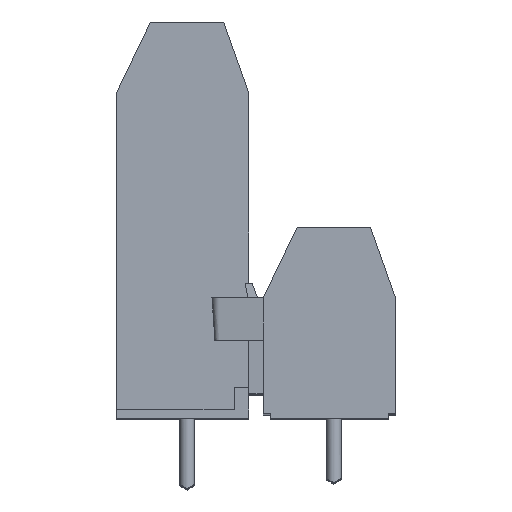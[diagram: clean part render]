
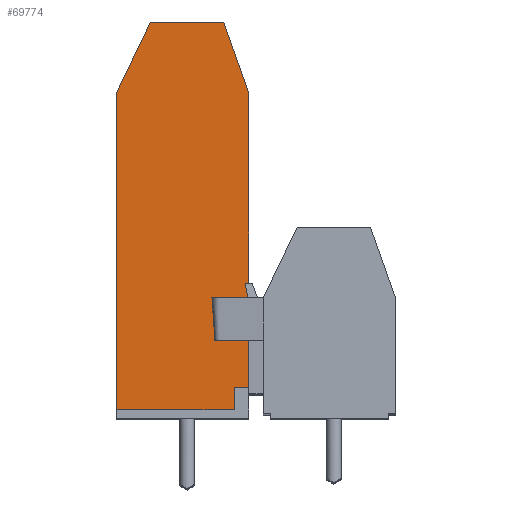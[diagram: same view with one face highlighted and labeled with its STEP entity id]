
A CAD part, top view. The second image highlights one B-rep face of the part: STEP entity #69774.
In plain terms, the highlighted planar face has unit normal (0, 0, 1).
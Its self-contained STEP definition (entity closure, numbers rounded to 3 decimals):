
#72 = EDGE_CURVE ( 'NONE', #78765, #37513, #77051, .T. ) ;
#1006 = VERTEX_POINT ( 'NONE', #21616 ) ;
#1264 = DIRECTION ( 'NONE',  ( 0., 1., 0. ) ) ;
#1487 = VERTEX_POINT ( 'NONE', #48053 ) ;
#1622 = LINE ( 'NONE', #52595, #69255 ) ;
#2286 = CARTESIAN_POINT ( 'NONE',  ( 14.151, 6.647, -2.98 ) ) ;
#2788 = VECTOR ( 'NONE', #49346, 1000. ) ;
#4319 = CARTESIAN_POINT ( 'NONE',  ( 12.563, 24.547, -2.98 ) ) ;
#5132 = VERTEX_POINT ( 'NONE', #45247 ) ;
#6871 = VERTEX_POINT ( 'NONE', #75083 ) ;
#7223 = LINE ( 'NONE', #72692, #45701 ) ;
#9177 = DIRECTION ( 'NONE',  ( 0., -1., 0. ) ) ;
#10140 = LINE ( 'NONE', #42113, #53907 ) ;
#10203 = EDGE_LOOP ( 'NONE', ( #30147, #57482, #23955, #78652, #75455, #30839, #69827, #77815, #78427, #24028, #55674, #11433, #33619 ) ) ;
#11433 = ORIENTED_EDGE ( 'NONE', *, *, #18946, .T. ) ;
#14230 = EDGE_CURVE ( 'NONE', #19168, #6871, #23433, .T. ) ;
#14811 = VECTOR ( 'NONE', #30394, 1000. ) ;
#15547 = CARTESIAN_POINT ( 'NONE',  ( 5.263, 11.847, -2.98 ) ) ;
#17571 = LINE ( 'NONE', #65574, #30082 ) ;
#18946 = EDGE_CURVE ( 'NONE', #5132, #21260, #28505, .T. ) ;
#19168 = VERTEX_POINT ( 'NONE', #49059 ) ;
#20234 = VECTOR ( 'NONE', #9177, 1000. ) ;
#21260 = VERTEX_POINT ( 'NONE', #29301 ) ;
#21616 = CARTESIAN_POINT ( 'NONE',  ( 13.273, -0.353, -2.98 ) ) ;
#22026 = VERTEX_POINT ( 'NONE', #31491 ) ;
#22290 = DIRECTION ( 'NONE',  ( -1., 0., 0. ) ) ;
#23433 = LINE ( 'NONE', #41410, #79645 ) ;
#23498 = EDGE_CURVE ( 'NONE', #21260, #78765, #38166, .T. ) ;
#23955 = ORIENTED_EDGE ( 'NONE', *, *, #14230, .T. ) ;
#24028 = ORIENTED_EDGE ( 'NONE', *, *, #79126, .T. ) ;
#24470 = FACE_OUTER_BOUND ( 'NONE', #10203, .T. ) ;
#25385 = CARTESIAN_POINT ( 'NONE',  ( 14.151, 6.747, -2.98 ) ) ;
#25585 = LINE ( 'NONE', #85166, #47517 ) ;
#28505 = LINE ( 'NONE', #54333, #53559 ) ;
#29193 = CARTESIAN_POINT ( 'NONE',  ( 14.208, 5.747, -2.98 ) ) ;
#29256 = DIRECTION ( 'NONE',  ( 0., 0., -1. ) ) ;
#29301 = CARTESIAN_POINT ( 'NONE',  ( 14.208, 5.747, -2.98 ) ) ;
#29473 = EDGE_CURVE ( 'NONE', #76360, #5132, #17571, .T. ) ;
#30082 = VECTOR ( 'NONE', #32103, 1000. ) ;
#30147 = ORIENTED_EDGE ( 'NONE', *, *, #72, .T. ) ;
#30394 = DIRECTION ( 'NONE',  ( -1., 0., 0. ) ) ;
#30687 = CARTESIAN_POINT ( 'NONE',  ( 7.563, 24.547, -2.98 ) ) ;
#30839 = ORIENTED_EDGE ( 'NONE', *, *, #54349, .T. ) ;
#31491 = CARTESIAN_POINT ( 'NONE',  ( 5.263, 19.747, -2.98 ) ) ;
#32103 = DIRECTION ( 'NONE',  ( 0., 1., 0. ) ) ;
#33619 = ORIENTED_EDGE ( 'NONE', *, *, #23498, .T. ) ;
#37513 = VERTEX_POINT ( 'NONE', #25385 ) ;
#38166 = LINE ( 'NONE', #29193, #2788 ) ;
#39005 = DIRECTION ( 'NONE',  ( -0.432, -0.902, 0. ) ) ;
#39194 = CARTESIAN_POINT ( 'NONE',  ( 14.263, -0.353, -2.98 ) ) ;
#39688 = EDGE_CURVE ( 'NONE', #37513, #19168, #52885, .T. ) ;
#39989 = CARTESIAN_POINT ( 'NONE',  ( 14.052, 6.63, -2.98 ) ) ;
#40202 = DIRECTION ( 'NONE',  ( 0., 0., -1. ) ) ;
#40547 = EDGE_CURVE ( 'NONE', #70380, #62364, #52625, .T. ) ;
#41410 = CARTESIAN_POINT ( 'NONE',  ( 14.263, 19.747, -2.98 ) ) ;
#42113 = CARTESIAN_POINT ( 'NONE',  ( 14.263, -1.885, -2.98 ) ) ;
#43573 = EDGE_CURVE ( 'NONE', #81374, #1487, #10140, .T. ) ;
#44366 = CARTESIAN_POINT ( 'NONE',  ( 5.263, -1.885, -2.98 ) ) ;
#44549 = EDGE_CURVE ( 'NONE', #1006, #1487, #45364, .T. ) ;
#45247 = CARTESIAN_POINT ( 'NONE',  ( 14.263, 5.747, -2.98 ) ) ;
#45305 = DIRECTION ( 'NONE',  ( 1., 0., 0. ) ) ;
#45364 = LINE ( 'NONE', #72140, #75688 ) ;
#45650 = AXIS2_PLACEMENT_3D ( 'NONE', #2286, #29256, #22290 ) ;
#45701 = VECTOR ( 'NONE', #39005, 1000. ) ;
#46416 = CARTESIAN_POINT ( 'NONE',  ( 14.429, 6.747, -2.98 ) ) ;
#47517 = VECTOR ( 'NONE', #45305, 1000. ) ;
#48053 = CARTESIAN_POINT ( 'NONE',  ( 13.273, -1.885, -2.98 ) ) ;
#49059 = CARTESIAN_POINT ( 'NONE',  ( 14.263, 6.747, -2.98 ) ) ;
#49346 = DIRECTION ( 'NONE',  ( -0.174, 0.985, 0. ) ) ;
#50540 = LINE ( 'NONE', #15547, #20234 ) ;
#52263 = DIRECTION ( 'NONE',  ( 1., 0., 0. ) ) ;
#52595 = CARTESIAN_POINT ( 'NONE',  ( 12.563, 24.547, -2.98 ) ) ;
#52625 = LINE ( 'NONE', #30687, #14811 ) ;
#52885 = LINE ( 'NONE', #46416, #66359 ) ;
#53559 = VECTOR ( 'NONE', #55487, 1000. ) ;
#53907 = VECTOR ( 'NONE', #62159, 1000. ) ;
#54333 = CARTESIAN_POINT ( 'NONE',  ( 14.863, 5.747, -2.98 ) ) ;
#54349 = EDGE_CURVE ( 'NONE', #62364, #22026, #7223, .T. ) ;
#55487 = DIRECTION ( 'NONE',  ( -1., 0., 0. ) ) ;
#55674 = ORIENTED_EDGE ( 'NONE', *, *, #29473, .T. ) ;
#57482 = ORIENTED_EDGE ( 'NONE', *, *, #39688, .T. ) ;
#59354 = AXIS2_PLACEMENT_3D ( 'NONE', #66053, #40202, #59652 ) ;
#59367 = PLANE ( 'NONE',  #59354 ) ;
#59652 = DIRECTION ( 'NONE',  ( -1., 0., 0. ) ) ;
#62159 = DIRECTION ( 'NONE',  ( 1., 0., 0. ) ) ;
#62364 = VERTEX_POINT ( 'NONE', #80557 ) ;
#65574 = CARTESIAN_POINT ( 'NONE',  ( 14.263, 19.747, -2.98 ) ) ;
#66053 = CARTESIAN_POINT ( 'NONE',  ( 14.263, 11.847, -2.98 ) ) ;
#66359 = VECTOR ( 'NONE', #52263, 1000. ) ;
#67769 = DIRECTION ( 'NONE',  ( 0., -1., 0. ) ) ;
#69255 = VECTOR ( 'NONE', #73766, 1000. ) ;
#69774 = ADVANCED_FACE ( 'NONE', ( #24470 ), #59367, .F. ) ;
#69827 = ORIENTED_EDGE ( 'NONE', *, *, #79555, .T. ) ;
#70380 = VERTEX_POINT ( 'NONE', #4319 ) ;
#72140 = CARTESIAN_POINT ( 'NONE',  ( 13.273, -0.353, -2.98 ) ) ;
#72692 = CARTESIAN_POINT ( 'NONE',  ( 5.263, 19.747, -2.98 ) ) ;
#73766 = DIRECTION ( 'NONE',  ( -0.334, 0.943, 0. ) ) ;
#75083 = CARTESIAN_POINT ( 'NONE',  ( 14.263, 19.747, -2.98 ) ) ;
#75455 = ORIENTED_EDGE ( 'NONE', *, *, #40547, .T. ) ;
#75688 = VECTOR ( 'NONE', #67769, 1000. ) ;
#76360 = VERTEX_POINT ( 'NONE', #39194 ) ;
#77051 = CIRCLE ( 'NONE', #45650, 0.1 ) ;
#77815 = ORIENTED_EDGE ( 'NONE', *, *, #43573, .T. ) ;
#78427 = ORIENTED_EDGE ( 'NONE', *, *, #44549, .F. ) ;
#78652 = ORIENTED_EDGE ( 'NONE', *, *, #79248, .T. ) ;
#78765 = VERTEX_POINT ( 'NONE', #39989 ) ;
#79126 = EDGE_CURVE ( 'NONE', #1006, #76360, #25585, .T. ) ;
#79248 = EDGE_CURVE ( 'NONE', #6871, #70380, #1622, .T. ) ;
#79555 = EDGE_CURVE ( 'NONE', #22026, #81374, #50540, .T. ) ;
#79645 = VECTOR ( 'NONE', #1264, 1000. ) ;
#80557 = CARTESIAN_POINT ( 'NONE',  ( 7.563, 24.547, -2.98 ) ) ;
#81374 = VERTEX_POINT ( 'NONE', #44366 ) ;
#85166 = CARTESIAN_POINT ( 'NONE',  ( 14.263, -0.353, -2.98 ) ) ;
